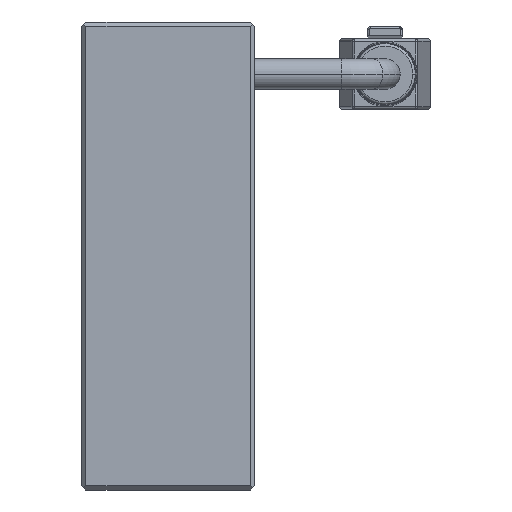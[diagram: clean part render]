
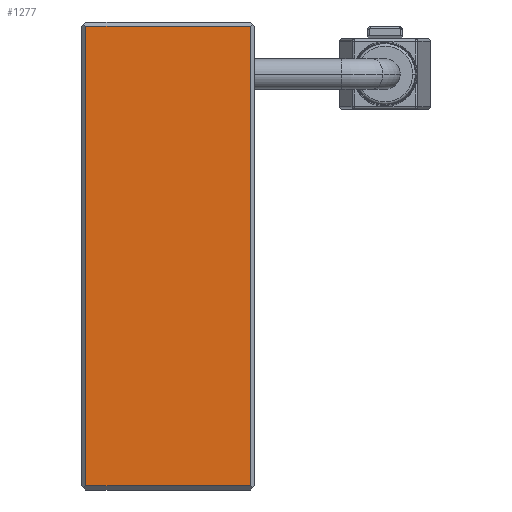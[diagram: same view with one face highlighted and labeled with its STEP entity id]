
A CAD part, left-side view. The second image highlights one B-rep face of the part: STEP entity #1277.
In plain terms, the highlighted planar face has unit normal (-1, 0, 0).
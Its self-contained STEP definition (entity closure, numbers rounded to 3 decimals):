
#481=DIRECTION('',(0.,1.,0.));
#482=VECTOR('',#481,19.);
#483=CARTESIAN_POINT('',(-9.,0.5,-26.5));
#484=LINE('',#483,#482);
#485=DIRECTION('',(0.,0.,1.));
#486=VECTOR('',#485,53.);
#487=CARTESIAN_POINT('',(-9.,19.5,-26.5));
#488=LINE('',#487,#486);
#489=DIRECTION('',(0.,1.,0.));
#490=VECTOR('',#489,19.);
#491=CARTESIAN_POINT('',(-9.,0.5,26.5));
#492=LINE('',#491,#490);
#493=DIRECTION('',(0.,0.,-1.));
#494=VECTOR('',#493,53.);
#495=CARTESIAN_POINT('',(-9.,0.5,26.5));
#496=LINE('',#495,#494);
#629=CARTESIAN_POINT('',(-9.,0.5,-26.5));
#630=CARTESIAN_POINT('',(-9.,19.5,-26.5));
#631=VERTEX_POINT('',#629);
#632=VERTEX_POINT('',#630);
#637=CARTESIAN_POINT('',(-9.,0.5,26.5));
#638=VERTEX_POINT('',#637);
#643=CARTESIAN_POINT('',(-9.,19.5,26.5));
#644=VERTEX_POINT('',#643);
#1264=CARTESIAN_POINT('',(-9.,0.,27.));
#1265=DIRECTION('',(-1.,0.,0.));
#1266=DIRECTION('',(0.,0.,-1.));
#1267=AXIS2_PLACEMENT_3D('',#1264,#1265,#1266);
#1268=PLANE('',#1267);
#1270=ORIENTED_EDGE('',*,*,#1269,.T.);
#1271=ORIENTED_EDGE('',*,*,#1253,.T.);
#1272=ORIENTED_EDGE('',*,*,#951,.F.);
#1274=ORIENTED_EDGE('',*,*,#1273,.T.);
#1275=EDGE_LOOP('',(#1270,#1271,#1272,#1274));
#1276=FACE_OUTER_BOUND('',#1275,.F.);
#1277=ADVANCED_FACE('',(#1276),#1268,.T.);
#951=EDGE_CURVE('',#638,#644,#492,.T.);
#1253=EDGE_CURVE('',#632,#644,#488,.T.);
#1269=EDGE_CURVE('',#631,#632,#484,.T.);
#1273=EDGE_CURVE('',#638,#631,#496,.T.);
